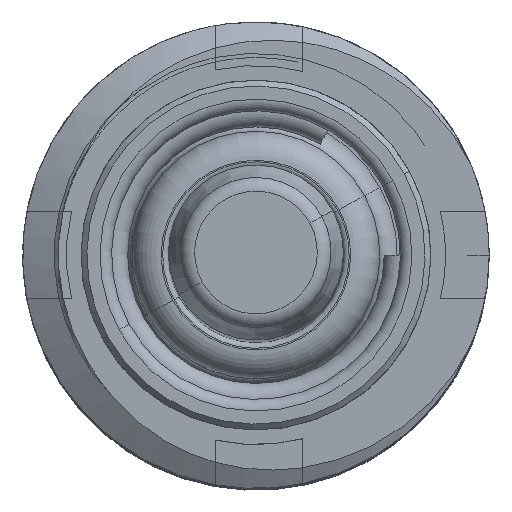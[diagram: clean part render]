
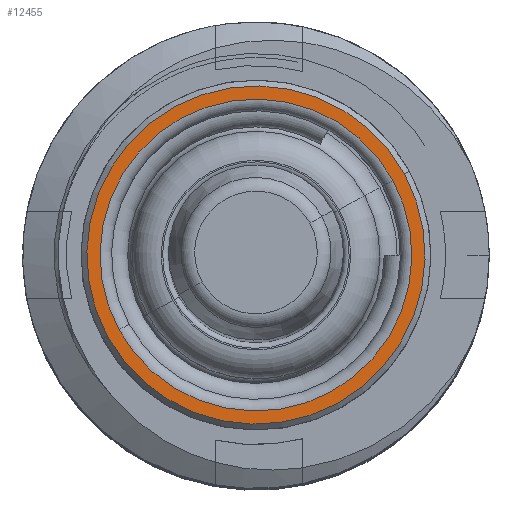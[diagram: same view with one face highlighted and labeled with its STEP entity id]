
A CAD part, top view. The second image highlights one B-rep face of the part: STEP entity #12455.
In plain terms, the highlighted planar face has unit normal (0, 0, 1).
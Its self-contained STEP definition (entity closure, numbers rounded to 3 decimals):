
#12308 = VERTEX_POINT('',#12309);
#12309 = CARTESIAN_POINT('',(-4.695,-2.565,91.5));
#12318 = VERTEX_POINT('',#12319);
#12319 = CARTESIAN_POINT('',(4.695,2.565,91.5));
#12326 = EDGE_CURVE('',#12318,#12308,#12327,.T.);
#12327 = CIRCLE('',#12328,5.35);
#12328 = AXIS2_PLACEMENT_3D('',#12329,#12330,#12331);
#12329 = CARTESIAN_POINT('',(0.,0.,91.5));
#12330 = DIRECTION('',(0.,0.,1.));
#12331 = DIRECTION('',(1.,0.,-0.));
#12344 = EDGE_CURVE('',#12308,#12318,#12345,.T.);
#12345 = CIRCLE('',#12346,5.35);
#12346 = AXIS2_PLACEMENT_3D('',#12347,#12348,#12349);
#12347 = CARTESIAN_POINT('',(0.,0.,91.5));
#12348 = DIRECTION('',(0.,0.,1.));
#12349 = DIRECTION('',(1.,0.,-0.));
#12360 = VERTEX_POINT('',#12361);
#12361 = CARTESIAN_POINT('',(-5.09,-2.781,91.5));
#12369 = EDGE_CURVE('',#12360,#12370,#12372,.T.);
#12370 = VERTEX_POINT('',#12371);
#12371 = CARTESIAN_POINT('',(5.09,2.781,91.5));
#12372 = CIRCLE('',#12373,5.8);
#12373 = AXIS2_PLACEMENT_3D('',#12374,#12375,#12376);
#12374 = CARTESIAN_POINT('',(0.,0.,91.5));
#12375 = DIRECTION('',(0.,0.,-1.));
#12376 = DIRECTION('',(-1.,0.,-0.));
#12402 = EDGE_CURVE('',#12370,#12360,#12403,.T.);
#12403 = CIRCLE('',#12404,5.8);
#12404 = AXIS2_PLACEMENT_3D('',#12405,#12406,#12407);
#12405 = CARTESIAN_POINT('',(0.,0.,91.5));
#12406 = DIRECTION('',(0.,0.,-1.));
#12407 = DIRECTION('',(-1.,0.,-0.));
#12455 = ADVANCED_FACE('',(#12456,#12460),#12464,.T.);
#12456 = FACE_BOUND('',#12457,.T.);
#12457 = EDGE_LOOP('',(#12458,#12459));
#12458 = ORIENTED_EDGE('',*,*,#12402,.F.);
#12459 = ORIENTED_EDGE('',*,*,#12369,.F.);
#12460 = FACE_BOUND('',#12461,.T.);
#12461 = EDGE_LOOP('',(#12462,#12463));
#12462 = ORIENTED_EDGE('',*,*,#12326,.F.);
#12463 = ORIENTED_EDGE('',*,*,#12344,.F.);
#12464 = PLANE('',#12465);
#12465 = AXIS2_PLACEMENT_3D('',#12466,#12467,#12468);
#12466 = CARTESIAN_POINT('',(5.8,0.,91.5));
#12467 = DIRECTION('',(0.,0.,1.));
#12468 = DIRECTION('',(1.,0.,-0.));
